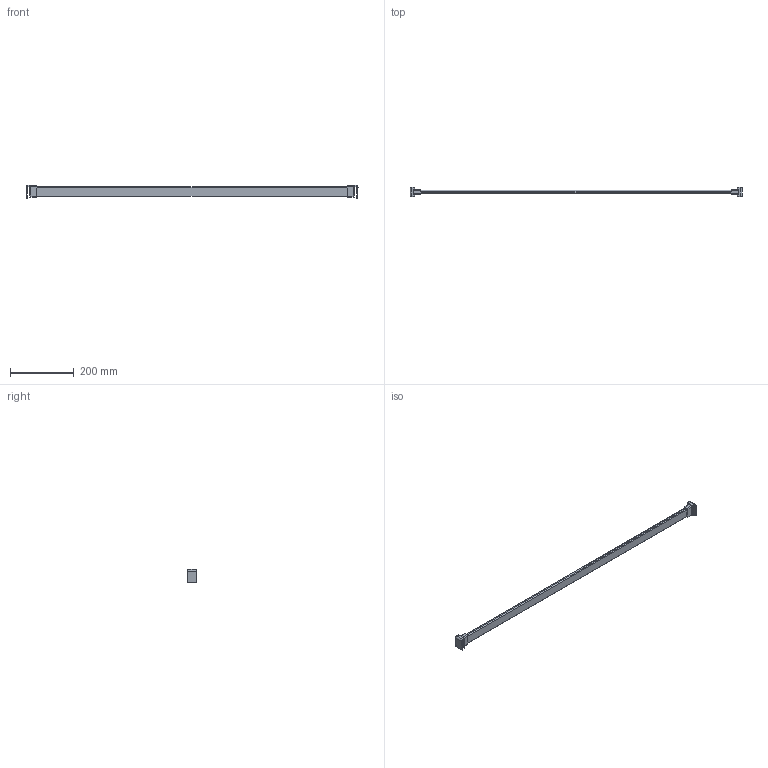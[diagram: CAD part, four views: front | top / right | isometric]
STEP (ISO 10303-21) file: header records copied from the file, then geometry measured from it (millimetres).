
FILE_DESCRIPTION (( 'STEP AP214' ), '1' );
FILE_NAME ('_Querreling_KAB-1100_KS-16_P602_Glashalter.step', '2010-08-26T14:59:41', ( 'grass' ), ( '' ), 'SwSTEP 2.0', 'SolidWorks 2009', '' );
FILE_SCHEMA (( 'AUTOMOTIVE_DESIGN' ));
Length unit declared in the file: millimetre
Products named in the file (1): _Querreling_KAB-1100_KS-16_P602_Glashalter
Bounding box: 1040.78 x 30 x 41.5 mm (x, y, z)
Volume: 336449.5 mm3; surface area: 89262.5 mm2
Topology: 1 solids, 1 shells, 124 faces, 300 edges, 176 vertices
Faces by surface type: cylinder 58, plane 34, torus 16, bspline 12, sphere 4
Entity records: 5090 total; most frequent: CARTESIAN_POINT 2269, ORIENTED_EDGE 592, DIRECTION 590, EDGE_CURVE 296, AXIS2_PLACEMENT_3D 225, VERTEX_POINT 176, VECTOR 140, LINE 140
